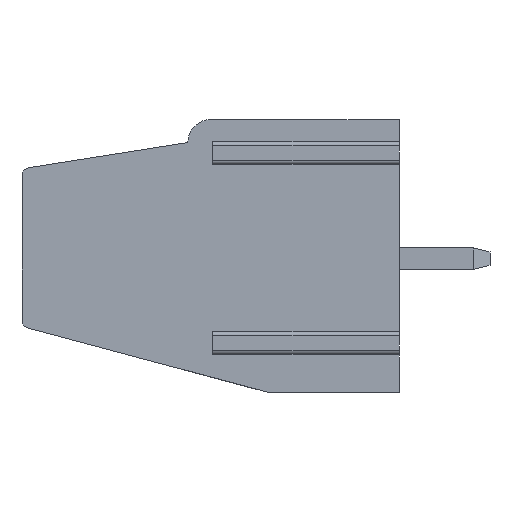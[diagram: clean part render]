
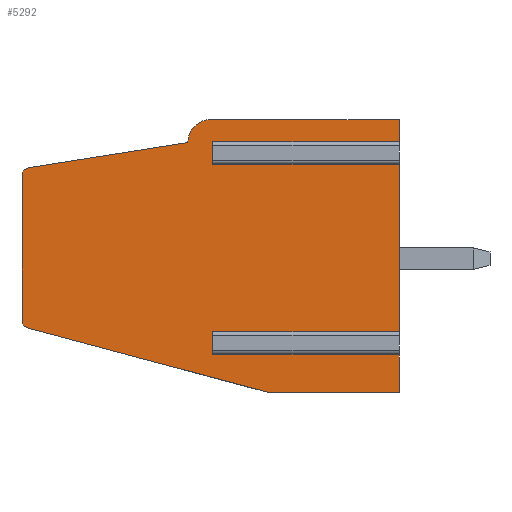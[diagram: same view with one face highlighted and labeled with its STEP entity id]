
A CAD part, left-side view. The second image highlights one B-rep face of the part: STEP entity #5292.
In plain terms, the highlighted planar face has unit normal (-1, 0, 0).
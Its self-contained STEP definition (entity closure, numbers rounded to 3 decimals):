
#8 = AXIS2_PLACEMENT_3D ( 'NONE', #3749, #1927, #1387 ) ;
#13 = DIRECTION ( 'NONE',  ( 0., 1., 0. ) ) ;
#71 = CARTESIAN_POINT ( 'NONE',  ( 0., 0., 10.2 ) ) ;
#120 = VERTEX_POINT ( 'NONE', #523 ) ;
#183 = CARTESIAN_POINT ( 'NONE',  ( 0., 6.96, 9.25 ) ) ;
#186 = LINE ( 'NONE', #7293, #3054 ) ;
#465 = CARTESIAN_POINT ( 'NONE',  ( 0., 14.1, 2.7 ) ) ;
#504 = ORIENTED_EDGE ( 'NONE', *, *, #3996, .F. ) ;
#523 = CARTESIAN_POINT ( 'NONE',  ( 0., 4.9, 0. ) ) ;
#585 = DIRECTION ( 'NONE',  ( 0., -0.966, -0.259 ) ) ;
#587 = CIRCLE ( 'NONE', #6587, 0.3 ) ;
#644 = DIRECTION ( 'NONE',  ( 0., 0., 1. ) ) ;
#648 = LINE ( 'NONE', #2414, #2377 ) ;
#726 = DIRECTION ( 'NONE',  ( 0., 0., 1. ) ) ;
#756 = CIRCLE ( 'NONE', #4916, 0.86 ) ;
#818 = EDGE_CURVE ( 'NONE', #1672, #6266, #2506, .T. ) ;
#862 = CARTESIAN_POINT ( 'NONE',  ( 0., 6.96, 2.15 ) ) ;
#960 = CARTESIAN_POINT ( 'NONE',  ( 0., 0., 8.65 ) ) ;
#973 = CARTESIAN_POINT ( 'NONE',  ( 0., 0., 2.15 ) ) ;
#1008 = EDGE_CURVE ( 'NONE', #6949, #1456, #3860, .T. ) ;
#1078 = CARTESIAN_POINT ( 'NONE',  ( 0., 0., 9.25 ) ) ;
#1085 = DIRECTION ( 'NONE',  ( 0., 0., 1. ) ) ;
#1129 = VECTOR ( 'NONE', #5606, 1000. ) ;
#1187 = CARTESIAN_POINT ( 'NONE',  ( 0., 0., 0. ) ) ;
#1387 = DIRECTION ( 'NONE',  ( 0., 1., 0. ) ) ;
#1456 = VERTEX_POINT ( 'NONE', #6352 ) ;
#1464 = DIRECTION ( 'NONE',  ( 0., 1., 0. ) ) ;
#1515 = CARTESIAN_POINT ( 'NONE',  ( 0., 6.96, 2.15 ) ) ;
#1529 = EDGE_CURVE ( 'NONE', #120, #2166, #3395, .T. ) ;
#1555 = ORIENTED_EDGE ( 'NONE', *, *, #1891, .T. ) ;
#1584 = VECTOR ( 'NONE', #4664, 1000. ) ;
#1616 = EDGE_CURVE ( 'NONE', #2166, #5209, #6464, .T. ) ;
#1665 = DIRECTION ( 'NONE',  ( 0., 0., 1. ) ) ;
#1672 = VERTEX_POINT ( 'NONE', #6580 ) ;
#1700 = B_SPLINE_CURVE_WITH_KNOTS ( 'NONE', 3,
 ( #2749, #2968, #5314, #6572 ),
 .UNSPECIFIED., .F., .F.,
 ( 4, 4 ),
 ( 0., 1. ),
 .UNSPECIFIED. ) ;
#1764 = ORIENTED_EDGE ( 'NONE', *, *, #5961, .T. ) ;
#1825 = ORIENTED_EDGE ( 'NONE', *, *, #818, .T. ) ;
#1879 = EDGE_CURVE ( 'NONE', #2017, #6816, #1700, .T. ) ;
#1891 = EDGE_CURVE ( 'NONE', #6542, #7162, #587, .T. ) ;
#1927 = DIRECTION ( 'NONE',  ( 1., 0., 0. ) ) ;
#2017 = VERTEX_POINT ( 'NONE', #5071 ) ;
#2060 = CARTESIAN_POINT ( 'NONE',  ( 0., 14.1, 8.104 ) ) ;
#2166 = VERTEX_POINT ( 'NONE', #1187 ) ;
#2377 = VECTOR ( 'NONE', #726, 1000. ) ;
#2414 = CARTESIAN_POINT ( 'NONE',  ( 0., 0., 9.25 ) ) ;
#2506 = LINE ( 'NONE', #71, #5240 ) ;
#2535 = EDGE_CURVE ( 'NONE', #6816, #4978, #4506, .T. ) ;
#2543 = DIRECTION ( 'NONE',  ( 0., 1., 0. ) ) ;
#2749 = CARTESIAN_POINT ( 'NONE',  ( 0., 7.9, 9.342 ) ) ;
#2921 = VECTOR ( 'NONE', #644, 1000. ) ;
#2951 = VECTOR ( 'NONE', #7094, 1000. ) ;
#2968 = CARTESIAN_POINT ( 'NONE',  ( 0., 9.882, 9.028 ) ) ;
#3032 = LINE ( 'NONE', #5907, #4809 ) ;
#3054 = VECTOR ( 'NONE', #1464, 1000. ) ;
#3063 = CARTESIAN_POINT ( 'NONE',  ( 0., 0., 1.55 ) ) ;
#3096 = VECTOR ( 'NONE', #3843, 1000. ) ;
#3105 = LINE ( 'NONE', #183, #4046 ) ;
#3125 = CARTESIAN_POINT ( 'NONE',  ( 0., 6.96, 9.25 ) ) ;
#3139 = DIRECTION ( 'NONE',  ( 0., 0., -1. ) ) ;
#3240 = DIRECTION ( 'NONE',  ( 0., 0.156, 0.988 ) ) ;
#3272 = EDGE_CURVE ( 'NONE', #7229, #3834, #7493, .T. ) ;
#3395 = LINE ( 'NONE', #4623, #1584 ) ;
#3585 = ORIENTED_EDGE ( 'NONE', *, *, #1879, .T. ) ;
#3661 = CARTESIAN_POINT ( 'NONE',  ( 0., 13.847, 8.4 ) ) ;
#3679 = ORIENTED_EDGE ( 'NONE', *, *, #5872, .F. ) ;
#3742 = CARTESIAN_POINT ( 'NONE',  ( 0., 13.8, 8.104 ) ) ;
#3749 = CARTESIAN_POINT ( 'NONE',  ( 0., 0., 0. ) ) ;
#3834 = VERTEX_POINT ( 'NONE', #3125 ) ;
#3843 = DIRECTION ( 'NONE',  ( 0., 0., -1. ) ) ;
#3860 = LINE ( 'NONE', #960, #6221 ) ;
#3937 = ORIENTED_EDGE ( 'NONE', *, *, #5231, .F. ) ;
#3996 = EDGE_CURVE ( 'NONE', #5632, #5824, #186, .T. ) ;
#4046 = VECTOR ( 'NONE', #3139, 1000. ) ;
#4060 = CARTESIAN_POINT ( 'NONE',  ( 0., 0., 1.55 ) ) ;
#4197 = DIRECTION ( 'NONE',  ( -1., 0., 0. ) ) ;
#4227 = ORIENTED_EDGE ( 'NONE', *, *, #5150, .T. ) ;
#4506 = CIRCLE ( 'NONE', #6713, 0.3 ) ;
#4508 = ORIENTED_EDGE ( 'NONE', *, *, #1529, .T. ) ;
#4598 = DIRECTION ( 'NONE',  ( 0., 1., 0. ) ) ;
#4623 = CARTESIAN_POINT ( 'NONE',  ( 0., 4.9, 0. ) ) ;
#4639 = ORIENTED_EDGE ( 'NONE', *, *, #1008, .T. ) ;
#4664 = DIRECTION ( 'NONE',  ( 0., -1., 0. ) ) ;
#4741 = LINE ( 'NONE', #4060, #2951 ) ;
#4809 = VECTOR ( 'NONE', #585, 1000. ) ;
#4862 = FACE_OUTER_BOUND ( 'NONE', #6836, .T. ) ;
#4905 = ORIENTED_EDGE ( 'NONE', *, *, #1616, .T. ) ;
#4916 = AXIS2_PLACEMENT_3D ( 'NONE', #6329, #5078, #1085 ) ;
#4939 = PLANE ( 'NONE',  #8 ) ;
#4978 = VERTEX_POINT ( 'NONE', #5597 ) ;
#5003 = LINE ( 'NONE', #2060, #3096 ) ;
#5050 = DIRECTION ( 'NONE',  ( -1., 0., 0. ) ) ;
#5071 = CARTESIAN_POINT ( 'NONE',  ( 0., 7.9, 9.342 ) ) ;
#5078 = DIRECTION ( 'NONE',  ( -1., 0., 0. ) ) ;
#5150 = EDGE_CURVE ( 'NONE', #5209, #6281, #4741, .T. ) ;
#5209 = VERTEX_POINT ( 'NONE', #3063 ) ;
#5231 = EDGE_CURVE ( 'NONE', #3834, #1456, #3105, .T. ) ;
#5240 = VECTOR ( 'NONE', #2543, 1000. ) ;
#5292 = ADVANCED_FACE ( 'NONE', ( #4862 ), #4939, .F. ) ;
#5305 = ORIENTED_EDGE ( 'NONE', *, *, #6929, .T. ) ;
#5314 = CARTESIAN_POINT ( 'NONE',  ( 0., 11.865, 8.714 ) ) ;
#5352 = CARTESIAN_POINT ( 'NONE',  ( 0., 0., 0. ) ) ;
#5509 = CARTESIAN_POINT ( 'NONE',  ( 0., 0., 8.65 ) ) ;
#5530 = DIRECTION ( 'NONE',  ( 0., 1., 0. ) ) ;
#5597 = CARTESIAN_POINT ( 'NONE',  ( 0., 14.1, 8.104 ) ) ;
#5606 = DIRECTION ( 'NONE',  ( 0., 0., -1. ) ) ;
#5632 = VERTEX_POINT ( 'NONE', #973 ) ;
#5680 = LINE ( 'NONE', #7532, #6762 ) ;
#5731 = EDGE_CURVE ( 'NONE', #6266, #2017, #756, .T. ) ;
#5745 = CARTESIAN_POINT ( 'NONE',  ( 0., 6.96, 1.55 ) ) ;
#5824 = VERTEX_POINT ( 'NONE', #1515 ) ;
#5872 = EDGE_CURVE ( 'NONE', #5824, #6281, #6100, .T. ) ;
#5907 = CARTESIAN_POINT ( 'NONE',  ( 0., 13.878, 2.41 ) ) ;
#5961 = EDGE_CURVE ( 'NONE', #5632, #6949, #5680, .T. ) ;
#5982 = ORIENTED_EDGE ( 'NONE', *, *, #3272, .F. ) ;
#6100 = LINE ( 'NONE', #862, #1129 ) ;
#6221 = VECTOR ( 'NONE', #5530, 1000. ) ;
#6232 = VECTOR ( 'NONE', #4598, 1000. ) ;
#6251 = ORIENTED_EDGE ( 'NONE', *, *, #7547, .T. ) ;
#6266 = VERTEX_POINT ( 'NONE', #6288 ) ;
#6281 = VERTEX_POINT ( 'NONE', #5745 ) ;
#6288 = CARTESIAN_POINT ( 'NONE',  ( 0., 7.04, 10.2 ) ) ;
#6329 = CARTESIAN_POINT ( 'NONE',  ( 0., 7.04, 9.34 ) ) ;
#6352 = CARTESIAN_POINT ( 'NONE',  ( 0., 6.96, 8.65 ) ) ;
#6450 = CARTESIAN_POINT ( 'NONE',  ( 0., 13.878, 2.41 ) ) ;
#6464 = LINE ( 'NONE', #5352, #2921 ) ;
#6542 = VERTEX_POINT ( 'NONE', #465 ) ;
#6572 = CARTESIAN_POINT ( 'NONE',  ( 0., 13.847, 8.4 ) ) ;
#6580 = CARTESIAN_POINT ( 'NONE',  ( 0., 0., 10.2 ) ) ;
#6587 = AXIS2_PLACEMENT_3D ( 'NONE', #7072, #4197, #13 ) ;
#6613 = CARTESIAN_POINT ( 'NONE',  ( 0., 0., 9.25 ) ) ;
#6713 = AXIS2_PLACEMENT_3D ( 'NONE', #3742, #5050, #3240 ) ;
#6762 = VECTOR ( 'NONE', #1665, 1000. ) ;
#6816 = VERTEX_POINT ( 'NONE', #3661 ) ;
#6836 = EDGE_LOOP ( 'NONE', ( #504, #1764, #4639, #3937, #5982, #6251, #1825, #7007, #3585, #6906, #5305, #1555, #7204, #4508, #4905, #4227, #3679 ) ) ;
#6906 = ORIENTED_EDGE ( 'NONE', *, *, #2535, .T. ) ;
#6929 = EDGE_CURVE ( 'NONE', #4978, #6542, #5003, .T. ) ;
#6949 = VERTEX_POINT ( 'NONE', #5509 ) ;
#7007 = ORIENTED_EDGE ( 'NONE', *, *, #5731, .T. ) ;
#7072 = CARTESIAN_POINT ( 'NONE',  ( 0., 13.8, 2.7 ) ) ;
#7094 = DIRECTION ( 'NONE',  ( 0., 1., 0. ) ) ;
#7162 = VERTEX_POINT ( 'NONE', #6450 ) ;
#7204 = ORIENTED_EDGE ( 'NONE', *, *, #7321, .T. ) ;
#7229 = VERTEX_POINT ( 'NONE', #6613 ) ;
#7293 = CARTESIAN_POINT ( 'NONE',  ( 0., 0., 2.15 ) ) ;
#7321 = EDGE_CURVE ( 'NONE', #7162, #120, #3032, .T. ) ;
#7493 = LINE ( 'NONE', #1078, #6232 ) ;
#7532 = CARTESIAN_POINT ( 'NONE',  ( 0., 0., 2.15 ) ) ;
#7547 = EDGE_CURVE ( 'NONE', #7229, #1672, #648, .T. ) ;
